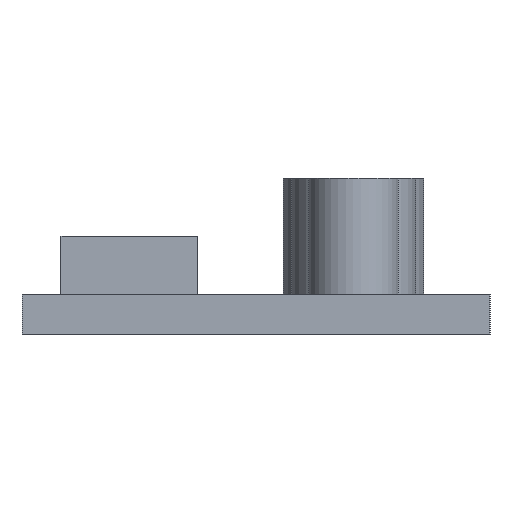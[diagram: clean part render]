
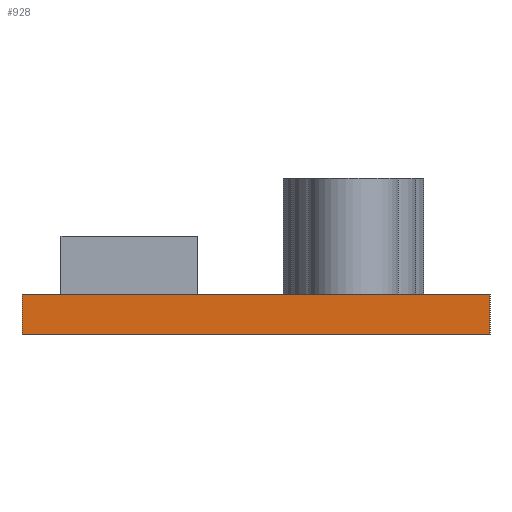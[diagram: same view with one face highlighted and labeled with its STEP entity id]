
A CAD part, left-side view. The second image highlights one B-rep face of the part: STEP entity #928.
In plain terms, the highlighted planar face has unit normal (-1, 0, 0).
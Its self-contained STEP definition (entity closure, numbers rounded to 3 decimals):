
#72 = PLANE('',#73);
#73 = AXIS2_PLACEMENT_3D('',#74,#75,#76);
#74 = CARTESIAN_POINT('',(0.,0.,2.));
#75 = DIRECTION('',(0.,0.,1.));
#76 = DIRECTION('',(1.,0.,-0.));
#346 = EDGE_CURVE('',#347,#349,#351,.T.);
#347 = VERTEX_POINT('',#348);
#348 = CARTESIAN_POINT('',(0.,0.,2.));
#349 = VERTEX_POINT('',#350);
#350 = CARTESIAN_POINT('',(0.,24.,2.));
#351 = SURFACE_CURVE('',#352,(#356,#363),.PCURVE_S1.);
#352 = LINE('',#353,#354);
#353 = CARTESIAN_POINT('',(0.,0.,2.));
#354 = VECTOR('',#355,1.);
#355 = DIRECTION('',(-0.,1.,0.));
#356 = PCURVE('',#72,#357);
#357 = DEFINITIONAL_REPRESENTATION('',(#358),#362);
#358 = LINE('',#359,#360);
#359 = CARTESIAN_POINT('',(0.,0.));
#360 = VECTOR('',#361,1.);
#361 = DIRECTION('',(0.,1.));
#362 = ( GEOMETRIC_REPRESENTATION_CONTEXT(2) 
PARAMETRIC_REPRESENTATION_CONTEXT() REPRESENTATION_CONTEXT('2D SPACE',''
  ) );
#363 = PCURVE('',#364,#369);
#364 = PLANE('',#365);
#365 = AXIS2_PLACEMENT_3D('',#366,#367,#368);
#366 = CARTESIAN_POINT('',(0.,0.,0.));
#367 = DIRECTION('',(1.,0.,-0.));
#368 = DIRECTION('',(0.,0.,1.));
#369 = DEFINITIONAL_REPRESENTATION('',(#370),#374);
#370 = LINE('',#371,#372);
#371 = CARTESIAN_POINT('',(2.,0.));
#372 = VECTOR('',#373,1.);
#373 = DIRECTION('',(0.,-1.));
#374 = ( GEOMETRIC_REPRESENTATION_CONTEXT(2) 
PARAMETRIC_REPRESENTATION_CONTEXT() REPRESENTATION_CONTEXT('2D SPACE',''
  ) );
#392 = PLANE('',#393);
#393 = AXIS2_PLACEMENT_3D('',#394,#395,#396);
#394 = CARTESIAN_POINT('',(0.,0.,0.));
#395 = DIRECTION('',(-0.,1.,0.));
#396 = DIRECTION('',(0.,0.,1.));
#446 = PLANE('',#447);
#447 = AXIS2_PLACEMENT_3D('',#448,#449,#450);
#448 = CARTESIAN_POINT('',(0.,24.,0.));
#449 = DIRECTION('',(-0.,1.,0.));
#450 = DIRECTION('',(0.,0.,1.));
#916 = PLANE('',#917);
#917 = AXIS2_PLACEMENT_3D('',#918,#919,#920);
#918 = CARTESIAN_POINT('',(0.,0.,0.));
#919 = DIRECTION('',(0.,0.,1.));
#920 = DIRECTION('',(1.,0.,-0.));
#928 = ADVANCED_FACE('',(#929),#364,.F.);
#929 = FACE_BOUND('',#930,.F.);
#930 = EDGE_LOOP('',(#931,#954,#977,#998));
#931 = ORIENTED_EDGE('',*,*,#932,.F.);
#932 = EDGE_CURVE('',#933,#347,#935,.T.);
#933 = VERTEX_POINT('',#934);
#934 = CARTESIAN_POINT('',(0.,0.,0.));
#935 = SURFACE_CURVE('',#936,(#940,#947),.PCURVE_S1.);
#936 = LINE('',#937,#938);
#937 = CARTESIAN_POINT('',(0.,0.,0.));
#938 = VECTOR('',#939,1.);
#939 = DIRECTION('',(0.,0.,1.));
#940 = PCURVE('',#364,#941);
#941 = DEFINITIONAL_REPRESENTATION('',(#942),#946);
#942 = LINE('',#943,#944);
#943 = CARTESIAN_POINT('',(0.,0.));
#944 = VECTOR('',#945,1.);
#945 = DIRECTION('',(1.,0.));
#946 = ( GEOMETRIC_REPRESENTATION_CONTEXT(2) 
PARAMETRIC_REPRESENTATION_CONTEXT() REPRESENTATION_CONTEXT('2D SPACE',''
  ) );
#947 = PCURVE('',#392,#948);
#948 = DEFINITIONAL_REPRESENTATION('',(#949),#953);
#949 = LINE('',#950,#951);
#950 = CARTESIAN_POINT('',(0.,0.));
#951 = VECTOR('',#952,1.);
#952 = DIRECTION('',(1.,0.));
#953 = ( GEOMETRIC_REPRESENTATION_CONTEXT(2) 
PARAMETRIC_REPRESENTATION_CONTEXT() REPRESENTATION_CONTEXT('2D SPACE',''
  ) );
#954 = ORIENTED_EDGE('',*,*,#955,.T.);
#955 = EDGE_CURVE('',#933,#956,#958,.T.);
#956 = VERTEX_POINT('',#957);
#957 = CARTESIAN_POINT('',(0.,24.,0.));
#958 = SURFACE_CURVE('',#959,(#963,#970),.PCURVE_S1.);
#959 = LINE('',#960,#961);
#960 = CARTESIAN_POINT('',(0.,0.,0.));
#961 = VECTOR('',#962,1.);
#962 = DIRECTION('',(-0.,1.,0.));
#963 = PCURVE('',#364,#964);
#964 = DEFINITIONAL_REPRESENTATION('',(#965),#969);
#965 = LINE('',#966,#967);
#966 = CARTESIAN_POINT('',(0.,0.));
#967 = VECTOR('',#968,1.);
#968 = DIRECTION('',(0.,-1.));
#969 = ( GEOMETRIC_REPRESENTATION_CONTEXT(2) 
PARAMETRIC_REPRESENTATION_CONTEXT() REPRESENTATION_CONTEXT('2D SPACE',''
  ) );
#970 = PCURVE('',#916,#971);
#971 = DEFINITIONAL_REPRESENTATION('',(#972),#976);
#972 = LINE('',#973,#974);
#973 = CARTESIAN_POINT('',(0.,0.));
#974 = VECTOR('',#975,1.);
#975 = DIRECTION('',(0.,1.));
#976 = ( GEOMETRIC_REPRESENTATION_CONTEXT(2) 
PARAMETRIC_REPRESENTATION_CONTEXT() REPRESENTATION_CONTEXT('2D SPACE',''
  ) );
#977 = ORIENTED_EDGE('',*,*,#978,.T.);
#978 = EDGE_CURVE('',#956,#349,#979,.T.);
#979 = SURFACE_CURVE('',#980,(#984,#991),.PCURVE_S1.);
#980 = LINE('',#981,#982);
#981 = CARTESIAN_POINT('',(0.,24.,0.));
#982 = VECTOR('',#983,1.);
#983 = DIRECTION('',(0.,0.,1.));
#984 = PCURVE('',#364,#985);
#985 = DEFINITIONAL_REPRESENTATION('',(#986),#990);
#986 = LINE('',#987,#988);
#987 = CARTESIAN_POINT('',(0.,-24.));
#988 = VECTOR('',#989,1.);
#989 = DIRECTION('',(1.,0.));
#990 = ( GEOMETRIC_REPRESENTATION_CONTEXT(2) 
PARAMETRIC_REPRESENTATION_CONTEXT() REPRESENTATION_CONTEXT('2D SPACE',''
  ) );
#991 = PCURVE('',#446,#992);
#992 = DEFINITIONAL_REPRESENTATION('',(#993),#997);
#993 = LINE('',#994,#995);
#994 = CARTESIAN_POINT('',(0.,0.));
#995 = VECTOR('',#996,1.);
#996 = DIRECTION('',(1.,0.));
#997 = ( GEOMETRIC_REPRESENTATION_CONTEXT(2) 
PARAMETRIC_REPRESENTATION_CONTEXT() REPRESENTATION_CONTEXT('2D SPACE',''
  ) );
#998 = ORIENTED_EDGE('',*,*,#346,.F.);
